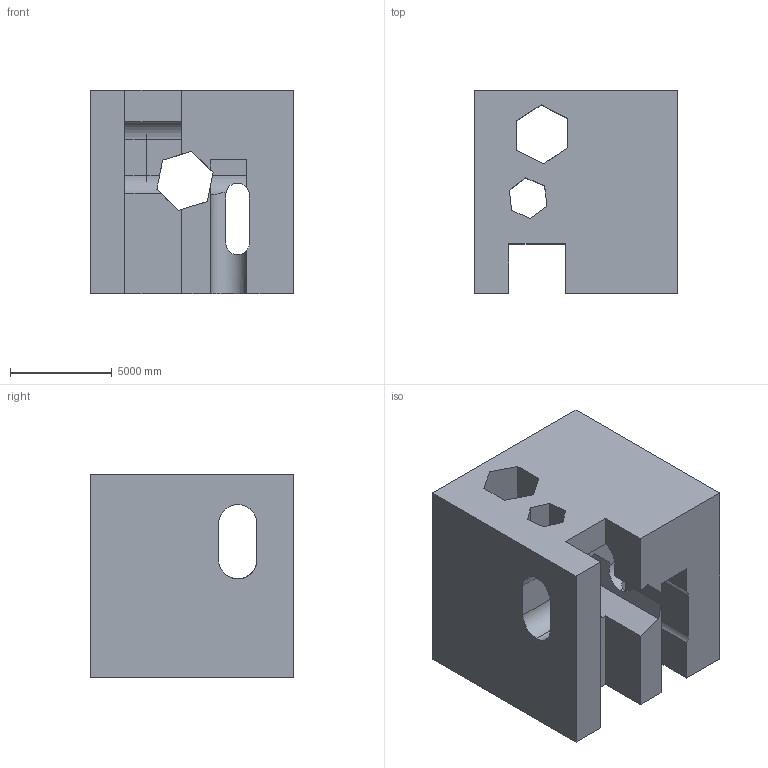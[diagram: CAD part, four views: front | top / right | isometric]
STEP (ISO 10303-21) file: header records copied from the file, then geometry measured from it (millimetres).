
FILE_DESCRIPTION (( 'STEP AP203' ), '1' );
FILE_NAME ('1613.STEP', '2022-08-18T16:10:16', ( 'user' ), ( '' ), 'SwSTEP 2.0', 'SolidWorks 2021', '' );
FILE_SCHEMA (( 'CONFIG_CONTROL_DESIGN' ));
Length unit declared in the file: centimetre
Products named in the file (1): 1613
Bounding box: 10000 x 10000 x 10000 mm (x, y, z)
Volume: 696327652481.2 mm3; surface area: 916426058.8 mm2
Topology: 1 solids, 1 shells, 61 faces, 207 edges, 138 vertices
Faces by surface type: plane 51, cylinder 10
Entity records: 2707 total; most frequent: CARTESIAN_POINT 824, ORIENTED_EDGE 414, DIRECTION 332, EDGE_CURVE 207, VECTOR 174, LINE 174, VERTEX_POINT 138, AXIS2_PLACEMENT_3D 79
